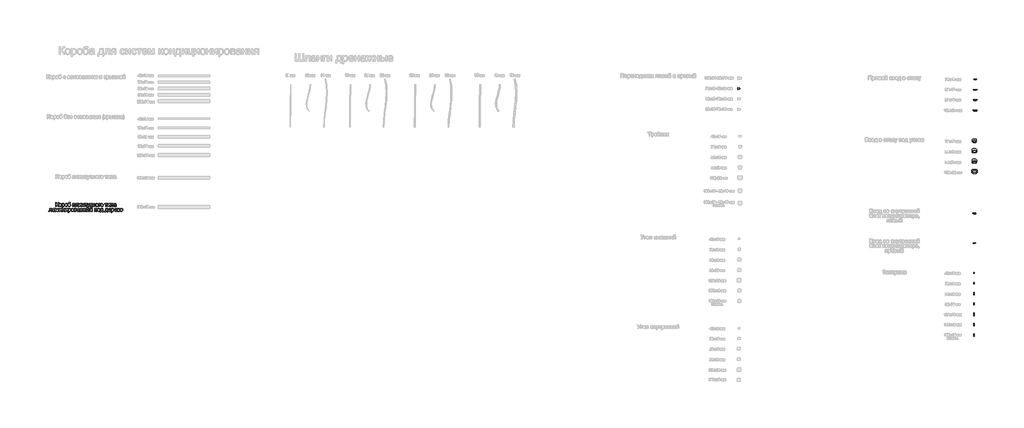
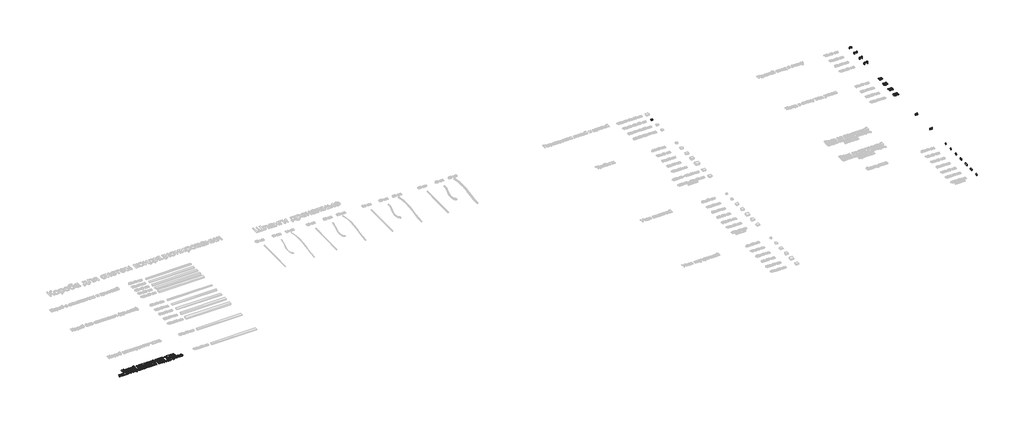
# One storey, part 4 of 21: 18 duct fittings, 1 proxy.
"""IFC4 building model written with IfcOpenShell, lengths in millimetres."""

from ifc_helpers import new_model, si_unit, origin, origin_with_axes, place, context, project, spatial, polyline, outline, extrude, transform, mapped, element, save
from components import duct_fitting_7fd099f2, duct_fitting_436bfc67, duct_fitting_90979366, duct_fitting_1b4ae472, duct_fitting_65455c14, duct_fitting_c6354664, duct_fitting_dde6f971, duct_fitting_40996c47, duct_fitting_84f10dba, duct_fitting_c839de67, duct_fitting_75d2aa5f, duct_fitting_c040d157, duct_fitting_d4e3258a, duct_fitting_d90d921c, duct_fitting_3eee8709, duct_fitting_0bfde9ad, duct_fitting_e12757e9

model = new_model("IFC4")

# Units and contexts
model_context = context("Model", 3, world=origin())
ifc_project = project(units=[si_unit("LENGTHUNIT", "METRE", prefix="MILLI")], contexts=[model_context])

# Site, building, storey
site = spatial("IfcSite", under=ifc_project)
building = spatial("IfcBuilding", under=site)
storey = spatial("IfcBuildingStorey", under=building, Name="Этаж 01", Elevation=0.0)

# Proxy
placement = place(None, origin())
element("IfcBuildingElementProxy", 1, Name="150 мм Arial", ObjectType="150 мм Arial", at=placement, inside=storey, context=model_context, shape_type="SweptSolid", body=[
    extrude(outline(polyline([(-2436.6040202, -7296.5845197), (-2417.7684621, -7296.5845197), (-2417.7684621, -7362.5089733), (-2405.0167524, -7361.262773), (-2396.7072179, -7357.5241722), (-2382.0103321, -7332.3058615), (-2371.6176658, -7311.2446172), (-2359.8454419, -7300.8151627), (-2343.0148407, -7296.5845197), (-2330.6540056, -7296.8052489), (-2330.6540056, -7315.6408071), (-2334.8110722, -7315.5304425), (-2338.9681387, -7315.4200779), (-2353.6834185, -7319.9450264), (-2364.8670312, -7339.3324076), (-2378.2027535, -7362.9504317), (-2391.207382, -7370.74953), (-2376.6668462, -7379.2659981), (-2362.3286454, -7397.0163044), (-2330.6540056, -7447.268985), (-2352.5061961, -7447.268985), (-2379.2880054, -7404.8154027), (-2398.1419576, -7382.6505125), (-2406.8469653, -7378.1393595), (-2417.7684621, -7376.6356419), (-2417.7684621, -7447.268985), (-2436.6040202, -7447.268985), (-2436.6040202, -7296.5845197)])), origin_with_axes(), (0.0, 0.0, 1.0), 20.0),
    extrude(outline(polyline([(-2321.2362265, -7391.9395329), (-2317.1619334, -7365.2588912), (-2304.9390542, -7346.5061065), (-2289.8374983, -7337.3182536), (-2271.7560982, -7334.255636), (-2251.9686454, -7337.9850398), (-2236.1635152, -7349.1732509), (-2225.8030385, -7366.9373528), (-2222.3495462, -7390.3944285), (-2223.8762565, -7409.4231247), (-2228.4563874, -7423.9084783), (-2235.9565815, -7434.7563986), (-2246.2434818, -7442.8727951), (-2258.4617626, -7447.9357711), (-2271.7560982, -7449.6234297), (-2291.7826743, -7445.9078216), (-2307.5694104, -7434.7609971), (-2317.8195225, -7416.6244148), (-2321.2362265, -7391.9395329)]), holes=[polyline([(-2302.4006684, -7391.9027447), (-2300.2209676, -7408.9494766), (-2293.6818651, -7421.094181), (-2283.8410217, -7428.3644489), (-2271.7560982, -7430.7878716), (-2259.7263569, -7428.3506533), (-2249.9039077, -7421.0389987), (-2243.3648052, -7408.733346), (-2241.1851044, -7391.3141335), (-2243.3786008, -7374.7640422), (-2249.95909, -7362.7848848), (-2259.7953348, -7355.5146168), (-2271.7560982, -7353.0911942), (-2283.8410217, -7355.5054198), (-2293.6818651, -7362.7480966), (-2300.2209676, -7374.8652098), (-2302.4006684, -7391.9027447)])]), origin_with_axes(), (0.0, 0.0, 1.0), 20.0),
    extrude(outline(polyline([(-2201.1595433, -7489.6489908), (-2201.1595433, -7336.6100808), (-2182.3239852, -7336.6100808), (-2182.3239852, -7355.077757), (-2169.3009625, -7339.4611663), (-2151.7162032, -7334.255636), (-2138.9782891, -7336.0766519), (-2127.8406617, -7341.5396995), (-2118.7723705, -7350.3136851), (-2112.2424651, -7362.0675149), (-2106.9817526, -7391.0934043), (-2108.4670761, -7407.2020372), (-2112.9230468, -7421.6092158), (-2120.2071103, -7433.5837747), (-2130.1767123, -7442.3945485), (-2141.7879878, -7447.8162094), (-2153.9970715, -7449.6234297), (-2170.3862144, -7444.7857815), (-2182.3239852, -7432.5537051), (-2182.3239852, -7489.6489908), (-2201.1595433, -7489.6489908)]), holes=[polyline([(-2182.3239852, -7392.8224497), (-2180.2868386, -7409.7082332), (-2174.175399, -7421.5172453), (-2165.1576916, -7428.470215), (-2154.4017417, -7430.7878716), (-2143.4710479, -7428.3874415), (-2134.2234143, -7421.1861515), (-2127.9188366, -7408.9448781), (-2125.8173107, -7391.4244981), (-2127.8682528, -7374.630685), (-2134.0210792, -7362.6561261), (-2143.024991, -7355.4824272), (-2153.6291895, -7353.0911942), (-2164.2747748, -7355.6341785), (-2173.623576, -7363.2631314), (-2180.1488829, -7375.7389295), (-2182.3239852, -7392.8224497)])]), origin_with_axes(), (0.0, 0.0, 1.0), 20.0),
    extrude(outline(polyline([(-2090.5006392, -7391.9395329), (-2086.4263461, -7365.2588912), (-2074.2034668, -7346.5061065), (-2059.1019109, -7337.3182536), (-2041.0205108, -7334.255636), (-2021.233058, -7337.9850398), (-2005.4279278, -7349.1732509), (-1995.0674511, -7366.9373528), (-1991.6139589, -7390.3944285), (-1993.1406691, -7409.4231247), (-1997.7208, -7423.9084783), (-2005.2209942, -7434.7563986), (-2015.5078944, -7442.8727951), (-2027.7261752, -7447.9357711), (-2041.0205108, -7449.6234297), (-2061.0470869, -7445.9078216), (-2076.833823, -7434.7609971), (-2087.0839351, -7416.6244148), (-2090.5006392, -7391.9395329)]), holes=[polyline([(-2071.665081, -7391.9027447), (-2069.4853802, -7408.9494766), (-2062.9462777, -7421.094181), (-2053.1054344, -7428.3644489), (-2041.0205108, -7430.7878716), (-2028.9907696, -7428.3506533), (-2019.1683203, -7421.0389987), (-2012.6292178, -7408.733346), (-2010.449517, -7391.3141335), (-2012.6430134, -7374.7640422), (-2019.2235026, -7362.7848848), (-2029.0597474, -7355.5146168), (-2041.0205108, -7353.0911942), (-2053.1054344, -7355.5054198), (-2062.9462777, -7362.7480966), (-2069.4853802, -7374.8652098), (-2071.665081, -7391.9027447)])]), origin_with_axes(), (0.0, 0.0, 1.0), 20.0),
    extrude(outline(polyline([(-1892.7272786, -7294.230075), (-1876.2461652, -7294.230075), (-1881.1022075, -7308.9269607), (-1890.7039276, -7314.2428555), (-1913.7701287, -7315.4200779), (-1944.8377632, -7319.7610854), (-1951.9654768, -7325.408074), (-1956.7571398, -7333.6670248), (-1960.7854477, -7358.2783303), (-1944.4698812, -7340.2521126), (-1934.5508629, -7335.7547552), (-1923.4454252, -7334.255636), (-1903.8465119, -7338.0678132), (-1887.9448126, -7349.5043447), (-1877.4049935, -7367.4431905), (-1873.8917204, -7390.7623105), (-1875.6345614, -7408.742543), (-1880.8630842, -7423.1727143), (-1897.3993799, -7442.7256423), (-1908.6933572, -7447.8989829), (-1923.4454252, -7449.6234297), (-1940.4461719, -7447.4023422), (-1953.1886845, -7440.7390795), (-1962.5650768, -7430.6131276), (-1969.4674628, -7418.0039722), (-1973.7164998, -7399.0166628), (-1975.1328455, -7369.7562486), (-1971.5597916, -7333.6164411), (-1960.84063, -7311.575711), (-1942.7086461, -7300.3323176), (-1916.8971256, -7296.5845197), (-1895.9278519, -7296.1614554), (-1892.7272786, -7294.230075)]), holes=[polyline([(-1892.7272786, -7390.1736993), (-1894.7690236, -7375.3526534), (-1900.8942589, -7363.4838605), (-1910.7351022, -7355.6893608), (-1923.9236718, -7353.0911942), (-1937.6732613, -7355.8365136), (-1947.8727896, -7364.0724717), (-1954.1911629, -7376.8977578), (-1956.2972873, -7393.4110609), (-1953.9704337, -7409.4185262), (-1946.9898728, -7421.1677574), (-1936.5972065, -7428.382843), (-1924.0340363, -7430.7878716), (-1911.4064869, -7428.005764), (-1901.4092936, -7419.6594412), (-1894.8977823, -7406.7237906), (-1892.7272786, -7390.1736993)])]), origin_with_axes(), (0.0, 0.0, 1.0), 20.0),
    extrude(outline(polyline([(-1791.4861535, -7336.6100808), (-1706.7261418, -7336.6100808), (-1706.7261418, -7447.268985), (-1725.5617, -7447.268985), (-1725.5617, -7355.445639), (-1772.6505953, -7355.445639), (-1772.6505953, -7447.268985), (-1791.4861535, -7447.268985), (-1791.4861535, -7336.6100808)])), origin_with_axes(), (0.0, 0.0, 1.0), 20.0),
    extrude(outline(polyline([(-1669.0550255, -7336.6100808), (-1584.2950138, -7336.6100808), (-1584.2950138, -7447.1586204), (-1603.130572, -7447.1586204), (-1603.130572, -7355.445639), (-1650.2194673, -7355.445639), (-1650.2194673, -7408.2367053), (-1651.4886602, -7432.5904933), (-1658.460024, -7442.8727951), (-1674.9411374, -7447.268985), (-1690.2450284, -7446.3124918), (-1690.2450284, -7428.4334268), (-1681.8205307, -7428.4334268), (-1673.3040625, -7427.2745985), (-1669.9011541, -7423.5957786), (-1669.0550255, -7407.1698475), (-1669.0550255, -7336.6100808)])), origin_with_axes(), (0.0, 0.0, 1.0), 20.0),
    extrude(outline(polyline([(-1556.0416766, -7336.6100808), (-1537.2061184, -7336.6100808), (-1537.2061184, -7421.0022105), (-1490.9265634, -7336.6100808), (-1466.5727753, -7336.6100808), (-1466.5727753, -7447.268985), (-1485.4083335, -7447.268985), (-1485.4083335, -7363.3918901), (-1531.3935829, -7447.268985), (-1556.0416766, -7447.268985), (-1556.0416766, -7336.6100808)])), origin_with_axes(), (0.0, 0.0, 1.0), 20.0),
    extrude(outline(polyline([(-1438.3194381, -7336.6100808), (-1419.48388, -7336.6100808), (-1419.48388, -7378.9900866), (-1370.0405398, -7378.9900866), (-1370.0405398, -7336.6100808), (-1351.2049817, -7336.6100808), (-1351.2049817, -7447.268985), (-1370.0405398, -7447.268985), (-1370.0405398, -7397.8256448), (-1419.48388, -7397.8256448), (-1419.48388, -7447.268985), (-1438.3194381, -7447.268985), (-1438.3194381, -7336.6100808)])), origin_with_axes(), (0.0, 0.0, 1.0), 20.0),
    extrude(outline(polyline([(-1332.3694235, -7336.6100808), (-1242.9005223, -7336.6100808), (-1242.9005223, -7355.445639), (-1278.2171938, -7355.445639), (-1278.2171938, -7447.268985), (-1297.052752, -7447.268985), (-1297.052752, -7355.445639), (-1332.3694235, -7355.445639), (-1332.3694235, -7336.6100808)])), origin_with_axes(), (0.0, 0.0, 1.0), 20.0),
    extrude(outline(polyline([(-1226.4194089, -7489.6489908), (-1228.7738537, -7471.5124084), (-1219.2089218, -7473.1678774), (-1210.2693893, -7471.0893441), (-1204.7879476, -7465.2952027), (-1199.6375996, -7451.4260515), (-1198.1660717, -7446.8643148), (-1238.1916327, -7336.6100808), (-1218.326005, -7336.6100808), (-1197.0992139, -7398.046374), (-1189.7047858, -7422.6208913), (-1182.3103577, -7400.9158536), (-1160.4949554, -7336.6100808), (-1140.7764804, -7336.6100808), (-1179.2937253, -7449.9177353), (-1189.3001156, -7474.4922526), (-1200.2262108, -7487.7727926), (-1214.9047024, -7492.0034356), (-1226.4194089, -7489.6489908)])), origin_with_axes(), (0.0, 0.0, 1.0), 20.0),
    extrude(outline(polyline([(-1054.5449407, -7407.2434239), (-1035.7093826, -7409.5978686), (-1040.9608981, -7426.350295), (-1050.8293326, -7439.0100342), (-1064.3857841, -7446.9700808), (-1080.7013506, -7449.6234297), (-1100.7371238, -7445.9216171), (-1116.4042982, -7434.8161794), (-1126.5164546, -7416.7945602), (-1129.8871734, -7392.3442031), (-1128.4478351, -7375.5825797), (-1124.1298201, -7361.0558394), (-1116.8641507, -7349.3250023), (-1106.581849, -7340.9510883), (-1094.2807948, -7335.9294991), (-1080.958868, -7334.255636), (-1065.0433732, -7336.5548985), (-1052.3192547, -7343.4526859), (-1043.1911827, -7354.5811163), (-1038.0638274, -7369.5723076), (-1056.8993855, -7371.9267523), (-1065.6365829, -7357.8184778), (-1080.8117152, -7353.0911942), (-1092.9840107, -7355.4180478), (-1102.6455116, -7362.3986087), (-1108.9500893, -7374.4099558), (-1111.0516152, -7391.8291683), (-1108.9960746, -7409.4829055), (-1102.8294526, -7421.5356394), (-1093.3426957, -7428.4748135), (-1081.32675, -7430.7878716), (-1071.5732786, -7429.3439347), (-1063.5764437, -7425.0121242), (-1057.7593097, -7417.6820755), (-1054.5449407, -7407.2434239)])), origin_with_axes(), (0.0, 0.0, 1.0), 20.0),
    extrude(outline(polyline([(-1019.2282692, -7336.6100808), (-1000.3927111, -7336.6100808), (-1000.3927111, -7378.9900866), (-950.9493709, -7378.9900866), (-950.9493709, -7336.6100808), (-932.1138128, -7336.6100808), (-932.1138128, -7447.268985), (-950.9493709, -7447.268985), (-950.9493709, -7397.8256448), (-1000.3927111, -7397.8256448), (-1000.3927111, -7447.268985), (-1019.2282692, -7447.268985), (-1019.2282692, -7336.6100808)])), origin_with_axes(), (0.0, 0.0, 1.0), 20.0),
    extrude(outline(polyline([(-908.5693651, -7391.9395329), (-904.495072, -7365.2588912), (-892.2721927, -7346.5061065), (-877.1706368, -7337.3182536), (-859.0892367, -7334.255636), (-839.3017839, -7337.9850398), (-823.4966537, -7349.1732509), (-813.136177, -7366.9373528), (-809.6826848, -7390.3944285), (-811.209395, -7409.4231247), (-815.7895259, -7423.9084783), (-823.2897201, -7434.7563986), (-833.5766203, -7442.8727951), (-845.7949011, -7447.9357711), (-859.0892367, -7449.6234297), (-879.1158128, -7445.9078216), (-894.9025489, -7434.7609971), (-905.152661, -7416.6244148), (-908.5693651, -7391.9395329)]), holes=[polyline([(-889.7338069, -7391.9027447), (-887.5541061, -7408.9494766), (-881.0150036, -7421.094181), (-871.1741603, -7428.3644489), (-859.0892367, -7430.7878716), (-847.0594955, -7428.3506533), (-837.2370462, -7421.0389987), (-830.6979437, -7408.733346), (-828.5182429, -7391.3141335), (-830.7117393, -7374.7640422), (-837.2922285, -7362.7848848), (-847.1284733, -7355.5146168), (-859.0892367, -7353.0911942), (-871.1741603, -7355.5054198), (-881.0150036, -7362.7480966), (-887.5541061, -7374.8652098), (-889.7338069, -7391.9027447)])]), origin_with_axes(), (0.0, 0.0, 1.0), 20.0),
    extrude(outline(polyline([(-788.4926818, -7336.6100808), (-727.2771178, -7336.6100808), (-727.2771178, -7355.445639), (-769.6571237, -7355.445639), (-769.6571237, -7447.268985), (-788.4926818, -7447.268985), (-788.4926818, -7336.6100808)])), origin_with_axes(), (0.0, 0.0, 1.0), 20.0),
    extrude(outline(polyline([(-717.8593388, -7391.9395329), (-713.7850457, -7365.2588912), (-701.5621664, -7346.5061065), (-686.4606105, -7337.3182536), (-668.3792104, -7334.255636), (-648.5917576, -7337.9850398), (-632.7866274, -7349.1732509), (-622.4261507, -7366.9373528), (-618.9726585, -7390.3944285), (-620.4993687, -7409.4231247), (-625.0794996, -7423.9084783), (-632.5796938, -7434.7563986), (-642.866594, -7442.8727951), (-655.0848748, -7447.9357711), (-668.3792104, -7449.6234297), (-688.4057865, -7445.9078216), (-704.1925226, -7434.7609971), (-714.4426347, -7416.6244148), (-717.8593388, -7391.9395329)]), holes=[polyline([(-699.0237806, -7391.9027447), (-696.8440798, -7408.9494766), (-690.3049773, -7421.094181), (-680.464134, -7428.3644489), (-668.3792104, -7430.7878716), (-656.3494692, -7428.3506533), (-646.5270199, -7421.0389987), (-639.9879174, -7408.733346), (-637.8082166, -7391.3141335), (-640.001713, -7374.7640422), (-646.5822022, -7362.7848848), (-656.418447, -7355.5146168), (-668.3792104, -7353.0911942), (-680.464134, -7355.5054198), (-690.3049773, -7362.7480966), (-696.8440798, -7374.8652098), (-699.0237806, -7391.9027447)])]), origin_with_axes(), (0.0, 0.0, 1.0), 20.0),
    extrude(outline(polyline([(-548.3393154, -7336.6100808), (-458.8704142, -7336.6100808), (-458.8704142, -7355.445639), (-494.1870857, -7355.445639), (-494.1870857, -7447.268985), (-513.0226438, -7447.268985), (-513.0226438, -7355.445639), (-548.3393154, -7355.445639), (-548.3393154, -7336.6100808)])), origin_with_axes(), (0.0, 0.0, 1.0), 20.0),
    extrude(outline(polyline([(-442.3893008, -7336.6100808), (-423.5537426, -7336.6100808), (-423.5537426, -7421.0022105), (-377.2741876, -7336.6100808), (-352.9203995, -7336.6100808), (-352.9203995, -7447.268985), (-371.7559577, -7447.268985), (-371.7559577, -7363.3918901), (-417.7412071, -7447.268985), (-442.3893008, -7447.268985), (-442.3893008, -7336.6100808)])), origin_with_axes(), (0.0, 0.0, 1.0), 20.0),
    extrude(outline(polyline([(-324.6670623, -7336.6100808), (-239.9070506, -7336.6100808), (-239.9070506, -7447.268985), (-258.7426088, -7447.268985), (-258.7426088, -7355.445639), (-305.8315042, -7355.445639), (-305.8315042, -7447.268985), (-324.6670623, -7447.268985), (-324.6670623, -7336.6100808)])), origin_with_axes(), (0.0, 0.0, 1.0), 20.0),
    extrude(outline(polyline([(-141.0203703, -7433.1423163), (-159.2857114, -7445.9078216), (-179.4640388, -7449.6234297), (-195.2047897, -7447.3885466), (-206.8160652, -7440.6838972), (-213.9759685, -7430.502763), (-216.3626029, -7417.8384253), (-212.7573594, -7402.9392045), (-203.284398, -7392.1234739), (-190.0958285, -7385.9430564), (-173.7986561, -7383.110365), (-141.1307349, -7376.6356419), (-141.0203703, -7372.4417871), (-142.3171544, -7364.0356835), (-146.2075065, -7358.5358477), (-154.9079156, -7354.4523576), (-167.0296274, -7353.0911942), (-186.0859147, -7356.7148318), (-195.1726, -7369.5723076), (-214.0081582, -7367.2178628), (-205.859572, -7348.823763), (-189.452035, -7338.0448206), (-164.6016062, -7334.255636), (-141.7745284, -7337.6033622), (-128.8802645, -7346.0094658), (-123.1045172, -7358.7933651), (-122.1848122, -7375.2744785), (-122.1848122, -7398.7085616), (-121.228319, -7431.4316651), (-117.4759226, -7447.268985), (-136.3114808, -7447.268985), (-141.0203703, -7433.1423163)]), holes=[polyline([(-141.0203703, -7395.4712), (-171.4074231, -7401.2469474), (-187.612625, -7404.3003679), (-194.9518708, -7409.2667748), (-197.5270448, -7416.5140502), (-191.9168444, -7426.7043814), (-175.4541251, -7430.7878716), (-156.3978377, -7426.2813171), (-144.1105791, -7415.373616), (-141.1307349, -7400.805489), (-141.0203703, -7395.4712)])]), origin_with_axes(), (0.0, 0.0, 1.0), 20.0),
    extrude(outline(polyline([(-2683.820721, -7519.5723076), (-2599.0607093, -7519.5723076), (-2599.0607093, -7630.1208471), (-2617.8962675, -7630.1208471), (-2617.8962675, -7538.4078657), (-2664.9851628, -7538.4078657), (-2664.9851628, -7591.198932), (-2666.2543557, -7615.5527201), (-2673.2257195, -7625.8350219), (-2689.7068329, -7630.2312117), (-2705.0107239, -7629.2747185), (-2705.0107239, -7611.3956536), (-2696.5862262, -7611.3956536), (-2688.069758, -7610.2368253), (-2684.6668496, -7606.5580053), (-2683.820721, -7590.1320742), (-2683.820721, -7519.5723076)])), origin_with_axes(), (0.0, 0.0, 1.0), 20.0),
    extrude(outline(polyline([(-2500.174029, -7616.1045431), (-2518.4393701, -7628.8700483), (-2538.6176975, -7632.5856565), (-2554.3584484, -7630.3507734), (-2565.9697238, -7623.646124), (-2573.1296272, -7613.4649898), (-2575.5162616, -7600.8006521), (-2571.9110181, -7585.9014313), (-2562.4380567, -7575.0857006), (-2549.2494872, -7568.9052831), (-2532.9523148, -7566.0725918), (-2500.2843936, -7559.5978686), (-2500.174029, -7555.4040139), (-2501.470813, -7546.9979103), (-2505.3611651, -7541.4980745), (-2514.0615743, -7537.4145843), (-2526.1832861, -7536.053421), (-2545.2395734, -7539.6770586), (-2554.3262587, -7552.5345343), (-2573.1618168, -7550.1800896), (-2565.0132306, -7531.7859898), (-2548.6056937, -7521.0070474), (-2523.7552649, -7517.2178628), (-2500.9281871, -7520.565589), (-2488.0339232, -7528.9716925), (-2482.2581758, -7541.7555919), (-2481.3384708, -7558.2367053), (-2481.3384708, -7581.6707884), (-2480.3819777, -7614.3938918), (-2476.6295813, -7630.2312117), (-2495.4651395, -7630.2312117), (-2500.174029, -7616.1045431)]), holes=[polyline([(-2500.174029, -7578.4334268), (-2530.5610818, -7584.2091741), (-2546.7662837, -7587.2625947), (-2554.1055295, -7592.2290016), (-2556.6807035, -7599.4762769), (-2551.070503, -7609.6666082), (-2534.6077837, -7613.7500983), (-2515.5514964, -7609.2435439), (-2503.2642378, -7598.3358427), (-2500.2843936, -7583.7677157), (-2500.174029, -7578.4334268)])]), origin_with_axes(), (0.0, 0.0, 1.0), 20.0),
    extrude(outline(polyline([(-2455.4395784, -7519.5723076), (-2423.0291746, -7519.5723076), (-2398.0499871, -7608.158292), (-2371.1210251, -7519.5723076), (-2340.0717847, -7519.5723076), (-2340.0717847, -7630.2312117), (-2358.9073428, -7630.2312117), (-2358.9073428, -7541.1301925), (-2385.9834577, -7630.2312117), (-2410.7051278, -7630.2312117), (-2436.6040202, -7536.8627613), (-2436.6040202, -7630.2312117), (-2455.4395784, -7630.2312117), (-2455.4395784, -7519.5723076)])), origin_with_axes(), (0.0, 0.0, 1.0), 20.0),
    extrude(outline(polyline([(-2311.8184475, -7519.5723076), (-2292.9828893, -7519.5723076), (-2292.9828893, -7603.9644373), (-2246.7033343, -7519.5723076), (-2222.3495462, -7519.5723076), (-2222.3495462, -7630.2312117), (-2241.1851044, -7630.2312117), (-2241.1851044, -7546.3541168), (-2287.1703538, -7630.2312117), (-2311.8184475, -7630.2312117), (-2311.8184475, -7519.5723076)])), origin_with_axes(), (0.0, 0.0, 1.0), 20.0),
    extrude(outline(polyline([(-2194.096209, -7519.5723076), (-2175.2606509, -7519.5723076), (-2175.2606509, -7561.9523134), (-2125.8173107, -7561.9523134), (-2125.8173107, -7519.5723076), (-2106.9817526, -7519.5723076), (-2106.9817526, -7630.2312117), (-2125.8173107, -7630.2312117), (-2125.8173107, -7580.7878716), (-2175.2606509, -7580.7878716), (-2175.2606509, -7630.2312117), (-2194.096209, -7630.2312117), (-2194.096209, -7519.5723076)])), origin_with_axes(), (0.0, 0.0, 1.0), 20.0),
    extrude(outline(polyline([(-2078.7284153, -7519.5723076), (-2059.8928572, -7519.5723076), (-2059.8928572, -7603.9644373), (-2013.6133022, -7519.5723076), (-1989.2595141, -7519.5723076), (-1989.2595141, -7630.2312117), (-2008.0950722, -7630.2312117), (-2008.0950722, -7546.3541168), (-2054.0803216, -7630.2312117), (-2078.7284153, -7630.2312117), (-2078.7284153, -7519.5723076)])), origin_with_axes(), (0.0, 0.0, 1.0), 20.0),
    extrude(outline(polyline([(-1961.0061769, -7672.6112176), (-1961.0061769, -7519.5723076), (-1942.1706187, -7519.5723076), (-1942.1706187, -7538.0399837), (-1929.1475961, -7522.423393), (-1911.5628367, -7517.2178628), (-1898.8249226, -7519.0388787), (-1887.6872952, -7524.5019263), (-1878.619004, -7533.2759119), (-1872.0890986, -7545.0297416), (-1866.8283861, -7574.0556311), (-1868.3137097, -7590.1642639), (-1872.7696803, -7604.5714426), (-1880.0537438, -7616.5460015), (-1890.0233459, -7625.3567753), (-1901.6346214, -7630.7784362), (-1913.8437051, -7632.5856565), (-1930.232848, -7627.7480083), (-1942.1706187, -7615.5159319), (-1942.1706187, -7672.6112176), (-1961.0061769, -7672.6112176)]), holes=[polyline([(-1942.1706187, -7575.7846764), (-1940.1334722, -7592.67046), (-1934.0220325, -7604.4794721), (-1925.0043251, -7611.4324418), (-1914.2483753, -7613.7500983), (-1903.3176815, -7611.3496683), (-1894.0700478, -7604.1483783), (-1887.7654701, -7591.9071049), (-1885.6639443, -7574.3867249), (-1887.7148864, -7557.5929118), (-1893.8677127, -7545.6183528), (-1902.8716246, -7538.4446539), (-1913.4758231, -7536.053421), (-1924.1214083, -7538.5964052), (-1933.4702095, -7546.2253581), (-1939.9955164, -7558.7011563), (-1942.1706187, -7575.7846764)])]), origin_with_axes(), (0.0, 0.0, 1.0), 20.0),
    extrude(outline(polyline([(-1850.3472727, -7574.9017596), (-1846.2729796, -7548.2211179), (-1834.0501003, -7529.4683332), (-1818.9485444, -7520.2804804), (-1800.8671444, -7517.2178628), (-1781.0796915, -7520.9472665), (-1765.2745613, -7532.1354777), (-1754.9140846, -7549.8995795), (-1751.4605924, -7573.3566553), (-1752.9873027, -7592.3853515), (-1757.5674335, -7606.870705), (-1765.0676277, -7617.7186254), (-1775.354528, -7625.8350219), (-1787.5728088, -7630.8979978), (-1800.8671444, -7632.5856565), (-1820.8937205, -7628.8700483), (-1836.6804566, -7617.7232239), (-1846.9305687, -7599.5866415), (-1850.3472727, -7574.9017596)]), holes=[polyline([(-1831.5117146, -7574.8649714), (-1829.3320137, -7591.9117034), (-1822.7929113, -7604.0564078), (-1812.9520679, -7611.3266757), (-1800.8671444, -7613.7500983), (-1788.8374031, -7611.3128801), (-1779.0149539, -7604.0012255), (-1772.4758514, -7591.6955727), (-1770.2961506, -7574.2763603), (-1772.489647, -7557.726269), (-1779.0701361, -7545.7471115), (-1788.906381, -7538.4768436), (-1800.8671444, -7536.053421), (-1812.9520679, -7538.4676465), (-1822.7929113, -7545.7103233), (-1829.3320137, -7557.8274365), (-1831.5117146, -7574.8649714)])]), origin_with_axes(), (0.0, 0.0, 1.0), 20.0),
    extrude(outline(polyline([(-1730.2705895, -7519.5723076), (-1688.7735004, -7519.5723076), (-1666.019999, -7522.0922992), (-1653.2177056, -7531.3261373), (-1647.8650226, -7547.4209746), (-1651.1023841, -7560.4991795), (-1660.851257, -7569.8249881), (-1648.1961164, -7580.0337135), (-1643.156133, -7597.7840197), (-1646.3475093, -7612.1406146), (-1653.9350755, -7622.2481724), (-1665.9464226, -7628.2354519), (-1682.4091419, -7630.2312117), (-1730.2705895, -7630.2312117), (-1730.2705895, -7519.5723076)]), holes=[polyline([(-1711.4350313, -7561.9523134), (-1692.8202024, -7561.9523134), (-1677.4611291, -7560.9958202), (-1669.9931246, -7557.1698475), (-1666.7005807, -7550.253666), (-1668.1445176, -7544.6342685), (-1672.476328, -7541.0198279), (-1692.2315912, -7538.4078657), (-1711.4350313, -7538.4078657), (-1711.4350313, -7561.9523134)]), polyline([(-1711.4350313, -7611.3956536), (-1688.332042, -7611.3956536), (-1667.8410149, -7607.9927451), (-1663.6011749, -7603.3528334), (-1661.9916912, -7596.2389154), (-1665.2106586, -7587.1706242), (-1673.5983681, -7581.8915176), (-1690.171452, -7580.7878716), (-1711.4350313, -7580.7878716), (-1711.4350313, -7611.3956536)])]), origin_with_axes(), (0.0, 0.0, 1.0), 20.0),
    extrude(outline(polyline([(-1548.9783423, -7616.1045431), (-1567.2436833, -7628.8700483), (-1587.4220108, -7632.5856565), (-1603.1627616, -7630.3507734), (-1614.7740371, -7623.646124), (-1621.9339404, -7613.4649898), (-1624.3205749, -7600.8006521), (-1620.7153313, -7585.9014313), (-1611.2423699, -7575.0857006), (-1598.0538004, -7568.9052831), (-1581.756628, -7566.0725918), (-1549.0887069, -7559.5978686), (-1548.9783423, -7555.4040139), (-1550.2751263, -7546.9979103), (-1554.1654784, -7541.4980745), (-1562.8658876, -7537.4145843), (-1574.9875993, -7536.053421), (-1594.0438867, -7539.6770586), (-1603.130572, -7552.5345343), (-1621.9661301, -7550.1800896), (-1613.8175439, -7531.7859898), (-1597.4100069, -7521.0070474), (-1572.5595782, -7517.2178628), (-1549.7325004, -7520.565589), (-1536.8382364, -7528.9716925), (-1531.0624891, -7541.7555919), (-1530.1427841, -7558.2367053), (-1530.1427841, -7581.6707884), (-1529.1862909, -7614.3938918), (-1525.4338946, -7630.2312117), (-1544.2694527, -7630.2312117), (-1548.9783423, -7616.1045431)]), holes=[polyline([(-1548.9783423, -7578.4334268), (-1579.3653951, -7584.2091741), (-1595.570597, -7587.2625947), (-1602.9098428, -7592.2290016), (-1605.4850167, -7599.4762769), (-1599.8748163, -7609.6666082), (-1583.412097, -7613.7500983), (-1564.3558097, -7609.2435439), (-1552.068551, -7598.3358427), (-1549.0887069, -7583.7677157), (-1548.9783423, -7578.4334268)])]), origin_with_axes(), (0.0, 0.0, 1.0), 20.0),
    extrude(outline(polyline([(-1504.2438917, -7519.5723076), (-1485.4083335, -7519.5723076), (-1485.4083335, -7561.9523134), (-1435.9649933, -7561.9523134), (-1435.9649933, -7519.5723076), (-1417.1294352, -7519.5723076), (-1417.1294352, -7630.2312117), (-1435.9649933, -7630.2312117), (-1435.9649933, -7580.7878716), (-1485.4083335, -7580.7878716), (-1485.4083335, -7630.2312117), (-1504.2438917, -7630.2312117), (-1504.2438917, -7519.5723076)])), origin_with_axes(), (0.0, 0.0, 1.0), 20.0),
    extrude(outline(polyline([(-1388.876098, -7519.5723076), (-1370.0405398, -7519.5723076), (-1370.0405398, -7561.9523134), (-1320.5971997, -7561.9523134), (-1320.5971997, -7519.5723076), (-1301.7616415, -7519.5723076), (-1301.7616415, -7630.2312117), (-1320.5971997, -7630.2312117), (-1320.5971997, -7580.7878716), (-1370.0405398, -7580.7878716), (-1370.0405398, -7630.2312117), (-1388.876098, -7630.2312117), (-1388.876098, -7519.5723076)])), origin_with_axes(), (0.0, 0.0, 1.0), 20.0),
    extrude(outline(polyline([(-1169.9127344, -7519.5723076), (-1151.0771763, -7519.5723076), (-1151.0771763, -7630.2312117), (-1169.9127344, -7630.2312117), (-1169.9127344, -7519.5723076)])), origin_with_axes(), (0.0, 0.0, 1.0), 20.0),
    extrude(outline(polyline([(-1273.5083043, -7519.5723076), (-1254.6727461, -7519.5723076), (-1254.6727461, -7559.5978686), (-1231.3858158, -7559.5978686), (-1211.2580722, -7561.9569119), (-1196.3450558, -7569.0340418), (-1187.1158162, -7580.2590412), (-1184.0394031, -7595.061693), (-1186.6191755, -7608.5399696), (-1194.358493, -7619.9121218), (-1207.7631932, -7627.6514392), (-1227.3391139, -7630.2312117), (-1273.5083043, -7630.2312117), (-1273.5083043, -7519.5723076)]), holes=[polyline([(-1254.6727461, -7611.3956536), (-1235.3221532, -7611.3956536), (-1210.3429657, -7607.4409221), (-1204.7419623, -7602.3779462), (-1202.8749612, -7595.0984812), (-1208.4115852, -7583.5101983), (-1217.2913369, -7579.7026197), (-1232.8573438, -7578.4334268), (-1254.6727461, -7578.4334268), (-1254.6727461, -7611.3956536)])]), origin_with_axes(), (0.0, 0.0, 1.0), 20.0),
    extrude(outline(polyline([(-1122.8238391, -7519.5723076), (-1103.9882809, -7519.5723076), (-1103.9882809, -7603.9644373), (-1057.7087259, -7519.5723076), (-1033.3549378, -7519.5723076), (-1033.3549378, -7630.2312117), (-1052.190496, -7630.2312117), (-1052.190496, -7546.3541168), (-1098.1757454, -7630.2312117), (-1122.8238391, -7630.2312117), (-1122.8238391, -7519.5723076)])), origin_with_axes(), (0.0, 0.0, 1.0), 20.0),
    extrude(outline(polyline([(-1061.6082751, -7479.5467465), (-1047.4816064, -7479.5467465), (-1050.5212314, -7491.6086774), (-1056.623474, -7500.4976261), (-1065.5124227, -7505.9744693), (-1076.9121661, -7507.8000837), (-1089.2821981, -7505.9882649), (-1098.8747212, -7500.5528084), (-1105.4322177, -7491.6776553), (-1108.6971704, -7479.5467465), (-1094.5705018, -7479.5467465), (-1089.2730011, -7490.1601421), (-1078.6044232, -7493.6734151), (-1066.9057758, -7490.2705067), (-1061.6082751, -7479.5467465)])), origin_with_axes(), (0.0, 0.0, 1.0), 20.0),
    extrude(outline(polyline([(-946.2404814, -7519.5723076), (-861.4804697, -7519.5723076), (-861.4804697, -7630.2312117), (-880.3160278, -7630.2312117), (-880.3160278, -7538.4078657), (-927.4049232, -7538.4078657), (-927.4049232, -7630.2312117), (-946.2404814, -7630.2312117), (-946.2404814, -7519.5723076)])), origin_with_axes(), (0.0, 0.0, 1.0), 20.0),
    extrude(outline(polyline([(-837.936022, -7574.9017596), (-833.8617289, -7548.2211179), (-821.6388496, -7529.4683332), (-806.5372937, -7520.2804804), (-788.4558936, -7517.2178628), (-768.6684408, -7520.9472665), (-752.8633106, -7532.1354777), (-742.5028339, -7549.8995795), (-739.0493417, -7573.3566553), (-740.576052, -7592.3853515), (-745.1561828, -7606.870705), (-752.656377, -7617.7186254), (-762.9432773, -7625.8350219), (-775.161558, -7630.8979978), (-788.4558936, -7632.5856565), (-808.4824697, -7628.8700483), (-824.2692059, -7617.7232239), (-834.519318, -7599.5866415), (-837.936022, -7574.9017596)]), holes=[polyline([(-819.1004638, -7574.8649714), (-816.920763, -7591.9117034), (-810.3816605, -7604.0564078), (-800.5408172, -7611.3266757), (-788.4558936, -7613.7500983), (-776.4261524, -7611.3128801), (-766.6037031, -7604.0012255), (-760.0646007, -7591.6955727), (-757.8848998, -7574.2763603), (-760.0783962, -7557.726269), (-766.6588854, -7545.7471115), (-776.4951303, -7538.4768436), (-788.4558936, -7536.053421), (-800.5408172, -7538.4676465), (-810.3816605, -7545.7103233), (-816.920763, -7557.8274365), (-819.1004638, -7574.8649714)])]), origin_with_axes(), (0.0, 0.0, 1.0), 20.0),
    extrude(outline(polyline([(-701.3782254, -7519.5723076), (-630.7448823, -7519.5723076), (-630.7448823, -7611.3956536), (-616.6182137, -7611.3956536), (-616.6182137, -7660.8389937), (-635.4537718, -7660.8389937), (-635.4537718, -7630.2312117), (-713.1504492, -7630.2312117), (-713.1504492, -7660.8389937), (-731.9860074, -7660.8389937), (-731.9860074, -7611.3956536), (-720.2137835, -7611.3956536), (-711.6559286, -7595.9308142), (-705.6640506, -7575.4719767), (-701.3782254, -7519.5723076)]), holes=[polyline([(-684.897112, -7538.4078657), (-689.3116959, -7581.3213005), (-699.0237806, -7611.3956536), (-649.5804405, -7611.3956536), (-649.5804405, -7538.4078657), (-684.897112, -7538.4078657)])]), origin_with_axes(), (0.0, 0.0, 1.0), 20.0),
    extrude(outline(polyline([(-520.0859782, -7519.5723076), (-449.4526351, -7519.5723076), (-449.4526351, -7611.3956536), (-435.3259665, -7611.3956536), (-435.3259665, -7660.8389937), (-454.1615246, -7660.8389937), (-454.1615246, -7630.2312117), (-531.858202, -7630.2312117), (-531.858202, -7660.8389937), (-550.6937602, -7660.8389937), (-550.6937602, -7611.3956536), (-538.9215363, -7611.3956536), (-530.3636814, -7595.9308142), (-524.3718034, -7575.4719767), (-520.0859782, -7519.5723076)]), holes=[polyline([(-503.6048648, -7538.4078657), (-508.0194487, -7581.3213005), (-517.7315334, -7611.3956536), (-468.2881932, -7611.3956536), (-468.2881932, -7538.4078657), (-503.6048648, -7538.4078657)])]), origin_with_axes(), (0.0, 0.0, 1.0), 20.0),
    extrude(outline(polyline([(-336.6600154, -7597.268985), (-318.1923392, -7599.6234297), (-324.8464048, -7613.5385662), (-335.4643989, -7623.9404296), (-349.8071982, -7630.4243498), (-367.6356794, -7632.5856565), (-389.7361902, -7628.8562528), (-406.7415354, -7617.6680416), (-417.5848572, -7599.7475899), (-421.1992979, -7575.8214646), (-417.5480691, -7551.0905975), (-406.5943826, -7532.5953302), (-389.8189637, -7521.0622296), (-368.7025371, -7517.2178628), (-348.2436997, -7521.0530326), (-331.8959435, -7532.558542), (-321.1767819, -7551.0170211), (-317.603728, -7575.7111), (-317.7140926, -7580.7878716), (-402.3637397, -7580.7878716), (-399.1033855, -7594.886949), (-391.5296149, -7605.2520242), (-380.5989212, -7611.6255798), (-367.2677974, -7613.7500983), (-348.8001212, -7609.813761), (-336.6600154, -7597.268985)]), holes=[polyline([(-402.3637397, -7561.9523134), (-336.4392862, -7561.9523134), (-338.986869, -7552.0011054), (-343.9808671, -7544.8825888), (-354.9621446, -7538.2607129), (-368.7761135, -7536.053421), (-381.4726409, -7537.814656), (-391.9710733, -7543.0983612), (-399.2689324, -7551.3343193), (-402.3637397, -7561.9523134)])]), origin_with_axes(), (0.0, 0.0, 1.0), 20.0),
    extrude(outline(polyline([(-298.7681699, -7672.6112176), (-298.7681699, -7519.5723076), (-279.9326117, -7519.5723076), (-279.9326117, -7538.0399837), (-266.9095891, -7522.423393), (-249.3248297, -7517.2178628), (-236.5869156, -7519.0388787), (-225.4492882, -7524.5019263), (-216.380997, -7533.2759119), (-209.8510916, -7545.0297416), (-204.5903791, -7574.0556311), (-206.0757026, -7590.1642639), (-210.5316733, -7604.5714426), (-217.8157368, -7616.5460015), (-227.7853389, -7625.3567753), (-239.3966144, -7630.7784362), (-251.6056981, -7632.5856565), (-267.994841, -7627.7480083), (-279.9326117, -7615.5159319), (-279.9326117, -7672.6112176), (-298.7681699, -7672.6112176)]), holes=[polyline([(-279.9326117, -7575.7846764), (-277.8954652, -7592.67046), (-271.7840255, -7604.4794721), (-262.7663181, -7611.4324418), (-252.0103683, -7613.7500983), (-241.0796745, -7611.3496683), (-231.8320408, -7604.1483783), (-225.5274631, -7591.9071049), (-223.4259372, -7574.3867249), (-225.4768794, -7557.5929118), (-231.6297057, -7545.6183528), (-240.6336176, -7538.4446539), (-251.2378161, -7536.053421), (-261.8834013, -7538.5964052), (-271.2322025, -7546.2253581), (-277.7575094, -7558.7011563), (-279.9326117, -7575.7846764)])]), origin_with_axes(), (0.0, 0.0, 1.0), 20.0),
    extrude(outline(polyline([(-105.924428, -7597.268985), (-87.4567518, -7599.6234297), (-94.1108174, -7613.5385662), (-104.7288115, -7623.9404296), (-119.0716108, -7630.4243498), (-136.900092, -7632.5856565), (-159.0006028, -7628.8562528), (-176.0059481, -7617.6680416), (-186.8492699, -7599.7475899), (-190.4637105, -7575.8214646), (-186.8124817, -7551.0905975), (-175.8587953, -7532.5953302), (-159.0833763, -7521.0622296), (-137.9669498, -7517.2178628), (-117.5081123, -7521.0530326), (-101.1603561, -7532.558542), (-90.4411945, -7551.0170211), (-86.8681406, -7575.7111), (-86.9785052, -7580.7878716), (-171.6281523, -7580.7878716), (-168.3677981, -7594.886949), (-160.7940276, -7605.2520242), (-149.8633338, -7611.6255798), (-136.53221, -7613.7500983), (-118.0645338, -7609.813761), (-105.924428, -7597.268985)]), holes=[polyline([(-171.6281523, -7561.9523134), (-105.7036988, -7561.9523134), (-108.2512816, -7552.0011054), (-113.2452797, -7544.8825888), (-124.2265572, -7538.2607129), (-138.0405262, -7536.053421), (-150.7370535, -7537.814656), (-161.235486, -7543.0983612), (-168.533345, -7551.3343193), (-171.6281523, -7561.9523134)])]), origin_with_axes(), (0.0, 0.0, 1.0), 20.0),
    extrude(outline(polyline([(-68.0325825, -7519.5723076), (-26.5354934, -7519.5723076), (-3.781992, -7522.0922992), (9.0203014, -7531.3261373), (14.3729844, -7547.4209746), (11.1356229, -7560.4991795), (1.38675, -7569.8249881), (14.0418906, -7580.0337135), (19.081874, -7597.7840197), (15.8904977, -7612.1406146), (8.3029315, -7622.2481724), (-3.7084156, -7628.2354519), (-20.1711349, -7630.2312117), (-68.0325825, -7630.2312117), (-68.0325825, -7519.5723076)]), holes=[polyline([(-49.1970243, -7561.9523134), (-30.5821954, -7561.9523134), (-15.2231221, -7560.9958202), (-7.7551176, -7557.1698475), (-4.4625737, -7550.253666), (-5.9065105, -7544.6342685), (-10.238321, -7541.0198279), (-29.9935842, -7538.4078657), (-49.1970243, -7538.4078657), (-49.1970243, -7561.9523134)]), polyline([(-49.1970243, -7611.3956536), (-26.094035, -7611.3956536), (-5.6030079, -7607.9927451), (-1.3631679, -7603.3528334), (0.2463158, -7596.2389154), (-2.9726516, -7587.1706242), (-11.3603611, -7581.8915176), (-27.933445, -7580.7878716), (-49.1970243, -7580.7878716), (-49.1970243, -7611.3956536)])]), origin_with_axes(), (0.0, 0.0, 1.0), 20.0),
    extrude(outline(polyline([(37.9174321, -7574.9017596), (41.9917252, -7548.2211179), (54.2146045, -7529.4683332), (69.3161604, -7520.2804804), (87.3975605, -7517.2178628), (107.1850133, -7520.9472665), (122.9901435, -7532.1354777), (133.3506202, -7549.8995795), (136.8041124, -7573.3566553), (135.2774022, -7592.3853515), (130.6972713, -7606.870705), (123.1970771, -7617.7186254), (112.9101768, -7625.8350219), (100.6918961, -7630.8979978), (87.3975605, -7632.5856565), (67.3709844, -7628.8700483), (51.5842482, -7617.7232239), (41.3341362, -7599.5866415), (37.9174321, -7574.9017596)]), holes=[polyline([(56.7529903, -7574.8649714), (58.9326911, -7591.9117034), (65.4717936, -7604.0564078), (75.3126369, -7611.3266757), (87.3975605, -7613.7500983), (99.4273017, -7611.3128801), (109.249751, -7604.0012255), (115.7888535, -7591.6955727), (117.9685543, -7574.2763603), (115.7750579, -7557.726269), (109.1945687, -7545.7471115), (99.3583238, -7538.4768436), (87.3975605, -7536.053421), (75.3126369, -7538.4676465), (65.4717936, -7545.7103233), (58.9326911, -7557.8274365), (56.7529903, -7574.8649714)])]), origin_with_axes(), (0.0, 0.0, 1.0), 20.0),
])

# Duct fittings
duct_fitting_shape = duct_fitting_7fd099f2(model_context)
element("IfcDuctFitting", 2, ObjectType="КНС_Заглушка_DKC : Стандартное", at=placement, inside=storey, context=model_context, shape_type="MappedRepresentation", body=[
    mapped(duct_fitting_shape, transform((32926.2112466, -10802.9348824, 0.0), x_axis=(1.0, 0.0, 0.0), y_axis=(0.0, 1.0, 0.0), z_axis=(0.0, 0.0, 1.0))),
])
duct_fitting_2_shape = duct_fitting_436bfc67(model_context)
element("IfcDuctFitting", 3, ObjectType="КНС_ВводВСтенуПодУглом_DKC : Ввод в стену", at=placement, inside=storey, context=model_context, shape_type="MappedRepresentation", body=[
    mapped(duct_fitting_2_shape, transform((32956.2112466, -6169.3702515, 0.0), x_axis=(1.0, 0.0, 0.0), y_axis=(0.0, 1.0, 0.0), z_axis=(0.0, 0.0, 1.0))),
])
duct_fitting_3_shape = duct_fitting_90979366(model_context)
element("IfcDuctFitting", 4, ObjectType="КНС_ВводВоВнутреннийБлокКондиционера_DKC : Левый", at=placement, inside=storey, context=model_context, shape_type="MappedRepresentation", body=[
    mapped(duct_fitting_3_shape, transform((32962.3238361, -7730.6639464, 0.0), x_axis=(1.0, 0.0, 0.0), y_axis=(0.0, 1.0, 0.0), z_axis=(0.0, 0.0, 1.0))),
])
duct_fitting_4_shape = duct_fitting_1b4ae472(model_context)
element("IfcDuctFitting", 5, ObjectType="КНС_ВводВоВнутреннийБлокКондиционера_DKC : Правый", at=placement, inside=storey, context=model_context, shape_type="MappedRepresentation", body=[
    mapped(duct_fitting_4_shape, transform((32939.1091055, -8874.055784, 0.0), x_axis=(1.0, 0.0, 0.0), y_axis=(0.0, 1.0, 0.0), z_axis=(0.0, 0.0, 1.0))),
])
duct_fitting_5_shape = duct_fitting_65455c14(model_context)
element("IfcDuctFitting", 6, ObjectType="КНС_ПрямойВводВСтену_DKC : Прямой ввод в стену_DKC", at=placement, inside=storey, context=model_context, shape_type="MappedRepresentation", body=[
    mapped(duct_fitting_5_shape, transform((32984.9730621, -3757.561458, 0.0), x_axis=(1.0, 0.0, 0.0), y_axis=(0.0, 1.0, 0.0), z_axis=(0.0, 0.0, 1.0))),
])
duct_fitting_6_shape = duct_fitting_c6354664(model_context)
element("IfcDuctFitting", 7, ObjectType="КНС_Переходники_DKC : Переходники_DKC", at=placement, inside=storey, context=model_context, shape_type="MappedRepresentation", body=[
    mapped(duct_fitting_6_shape, transform((23840.6781032, -2895.8694479, -0.1), x_axis=(0.9999998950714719, 0.0, -0.0004581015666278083), y_axis=(0.0, 1.0000000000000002, 0.0), z_axis=(0.0004581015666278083, 0.0, 0.9999998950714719))),
])
duct_fitting_7_shape = duct_fitting_dde6f971(model_context)
element("IfcDuctFitting", 8, ObjectType="КНС_ПрямойВводВСтену_DKC : Прямой ввод в стену_DKC", at=placement, inside=storey, context=model_context, shape_type="MappedRepresentation", body=[
    mapped(duct_fitting_7_shape, transform((32984.9730621, -2557.561458, 0.0), x_axis=(1.0, 0.0, 0.0), y_axis=(0.0, 1.0, 0.0), z_axis=(0.0, 0.0, 1.0))),
])
duct_fitting_8_shape = duct_fitting_40996c47(model_context)
element("IfcDuctFitting", 9, ObjectType="КНС_ПрямойВводВСтену_DKC : Прямой ввод в стену_DKC", at=placement, inside=storey, context=model_context, shape_type="MappedRepresentation", body=[
    mapped(duct_fitting_8_shape, transform((32984.9730621, -2957.561458, 0.0), x_axis=(1.0, 0.0, 0.0), y_axis=(0.0, 1.0, 0.0), z_axis=(0.0, 0.0, 1.0))),
])
duct_fitting_9_shape = duct_fitting_84f10dba(model_context)
element("IfcDuctFitting", 10, ObjectType="КНС_ПрямойВводВСтену_DKC : Прямой ввод в стену_DKC", at=placement, inside=storey, context=model_context, shape_type="MappedRepresentation", body=[
    mapped(duct_fitting_9_shape, transform((32984.9730621, -3357.561458, 0.0), x_axis=(1.0, 0.0, 0.0), y_axis=(0.0, 1.0, 0.0), z_axis=(0.0, 0.0, 1.0))),
])
duct_fitting_10_shape = duct_fitting_c839de67(model_context)
element("IfcDuctFitting", 11, ObjectType="КНС_ВводВСтенуПодУглом_DKC : Ввод в стену", at=placement, inside=storey, context=model_context, shape_type="MappedRepresentation", body=[
    mapped(duct_fitting_10_shape, transform((32956.2112466, -4969.3702515, 0.0), x_axis=(1.0, 0.0, 0.0), y_axis=(0.0, 1.0, 0.0), z_axis=(0.0, 0.0, 1.0))),
])
duct_fitting_11_shape = duct_fitting_75d2aa5f(model_context)
element("IfcDuctFitting", 12, ObjectType="КНС_ВводВСтенуПодУглом_DKC : Ввод в стену", at=placement, inside=storey, context=model_context, shape_type="MappedRepresentation", body=[
    mapped(duct_fitting_11_shape, transform((32956.2112466, -5369.3702515, 0.0), x_axis=(1.0, 0.0, 0.0), y_axis=(0.0, 1.0, 0.0), z_axis=(0.0, 0.0, 1.0))),
])
duct_fitting_12_shape = duct_fitting_c040d157(model_context)
element("IfcDuctFitting", 13, ObjectType="КНС_ВводВСтенуПодУглом_DKC : Ввод в стену", at=placement, inside=storey, context=model_context, shape_type="MappedRepresentation", body=[
    mapped(duct_fitting_12_shape, transform((32956.2112466, -5769.3702515, 0.0), x_axis=(1.0, 0.0, 0.0), y_axis=(0.0, 1.0, 0.0), z_axis=(0.0, 0.0, 1.0))),
])
duct_fitting_13_shape = duct_fitting_d4e3258a(model_context)
element("IfcDuctFitting", 14, ObjectType="КНС_Заглушка_DKC : Стандартное", at=placement, inside=storey, context=model_context, shape_type="MappedRepresentation", body=[
    mapped(duct_fitting_13_shape, transform((32926.2112466, -12002.9348824, 0.0), x_axis=(1.0, 0.0, 0.0), y_axis=(0.0, 1.0, 0.0), z_axis=(0.0, 0.0, 1.0))),
])
duct_fitting_14_shape = duct_fitting_d90d921c(model_context)
element("IfcDuctFitting", 15, ObjectType="КНС_Заглушка_DKC : Стандартное", at=placement, inside=storey, context=model_context, shape_type="MappedRepresentation", body=[
    mapped(duct_fitting_14_shape, transform((32926.2112466, -10002.9348824, 0.0), x_axis=(1.0, 0.0, 0.0), y_axis=(0.0, 1.0, 0.0), z_axis=(0.0, 0.0, 1.0))),
])
duct_fitting_15_shape = duct_fitting_3eee8709(model_context)
element("IfcDuctFitting", 16, ObjectType="КНС_Заглушка_DKC : Стандартное", at=placement, inside=storey, context=model_context, shape_type="MappedRepresentation", body=[
    mapped(duct_fitting_15_shape, transform((32926.2112466, -10402.9348824, 0.0), x_axis=(1.0, 0.0, 0.0), y_axis=(0.0, 1.0, 0.0), z_axis=(0.0, 0.0, 1.0))),
])
duct_fitting_16_shape = duct_fitting_0bfde9ad(model_context)
element("IfcDuctFitting", 17, ObjectType="КНС_Заглушка_DKC : Стандартное", at=placement, inside=storey, context=model_context, shape_type="MappedRepresentation", body=[
    mapped(duct_fitting_16_shape, transform((32926.2112466, -11202.9348824, 0.0), x_axis=(1.0, 0.0, 0.0), y_axis=(0.0, 1.0, 0.0), z_axis=(0.0, 0.0, 1.0))),
])
duct_fitting_17_shape = duct_fitting_e12757e9(model_context)
element("IfcDuctFitting", 18, ObjectType="КНС_Заглушка_DKC : Стандартное", at=placement, inside=storey, context=model_context, shape_type="MappedRepresentation", body=[
    mapped(duct_fitting_17_shape, transform((32926.2112466, -11602.9348824, 0.0), x_axis=(1.0, 0.0, 0.0), y_axis=(0.0, 1.0, 0.0), z_axis=(0.0, 0.0, 1.0))),
])
element("IfcDuctFitting", 19, ObjectType="КНС_Заглушка_DKC : Стандартное", at=placement, inside=storey, context=model_context, shape_type="MappedRepresentation", body=[
    mapped(duct_fitting_13_shape, transform((32926.2112466, -12402.9348824, 0.0), x_axis=(1.0, 0.0, 0.0), y_axis=(0.0, 1.0, 0.0), z_axis=(0.0, 0.0, 1.0))),
])

save(model, "model.ifc")
